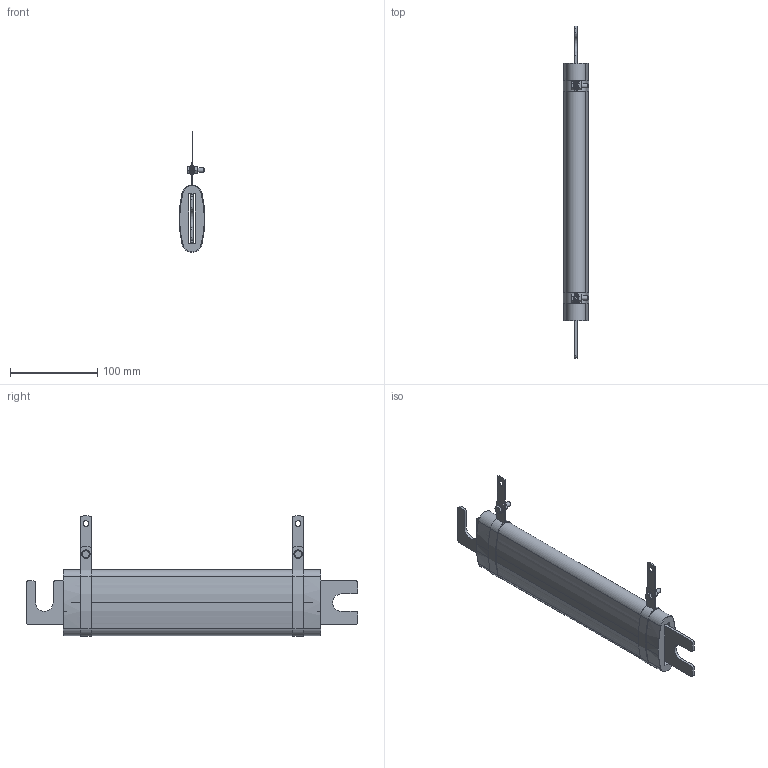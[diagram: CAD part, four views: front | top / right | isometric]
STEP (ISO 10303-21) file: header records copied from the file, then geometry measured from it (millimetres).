
FILE_DESCRIPTION(/* description */ (''),/* implementation_level */ '2;1');
FILE_NAME(/* name */ 'C:\_Vault\Dati\CATALOGO\RCE\RCE 300-1800\CE0800.stp',/* time_stamp */ '2014-01-22T16:07:07+01:00',/* author */ ('stefano'),/* organization */ (''),/* preprocessor_version */ 'ST-DEVELOPER v15.2',/* originating_system */ 'Autodesk Inventor 2014',/* authorisation */ '');
FILE_SCHEMA (('AUTOMOTIVE_DESIGN { 1 0 10303 214 3 1 1 }'));
Length unit declared in the file: millimetre
Products named in the file (1): CE0800
Bounding box: 29.17 x 380 x 137.95 mm (x, y, z)
Volume: 451611.6 mm3; surface area: 196186.4 mm2
Topology: 5 solids, 7 shells, 262 faces, 648 edges, 424 vertices
Faces by surface type: plane 140, cylinder 102, cone 20
Full cylindrical faces by diameter (mm): 3 x2, 5 x4, 5.3 x4, 6.5 x6, 6.88 x2, 10 x4
Entity records: 7951 total; most frequent: CARTESIAN_POINT 1393, DIRECTION 1344, ORIENTED_EDGE 1256, EDGE_CURVE 616, AXIS2_PLACEMENT_3D 513, VERTEX_POINT 418, EDGE_LOOP 336, LINE 318
